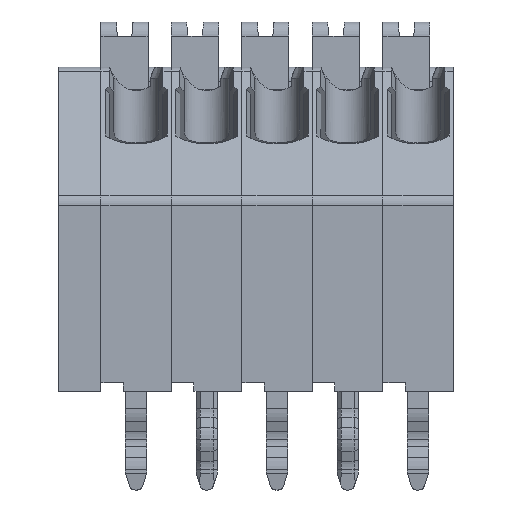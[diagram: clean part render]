
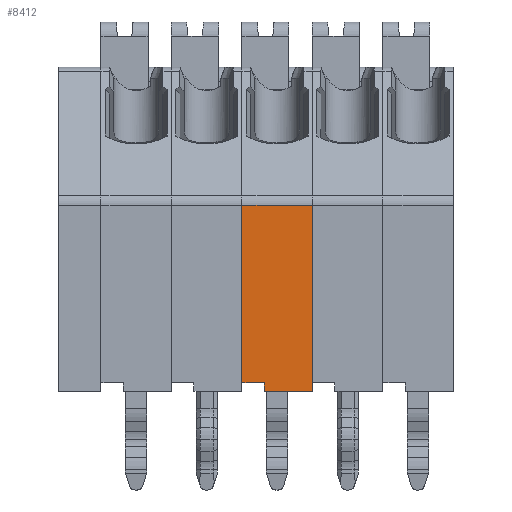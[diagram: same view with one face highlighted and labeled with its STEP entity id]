
A CAD part, front view. The second image highlights one B-rep face of the part: STEP entity #8412.
In plain terms, the highlighted planar face has unit normal (0, -1, 0).
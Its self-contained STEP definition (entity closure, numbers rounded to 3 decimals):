
#8412=ADVANCED_FACE('',(#18732),#18733,.T.);
#18732=FACE_OUTER_BOUND('',#31092,.T.);
#18733=PLANE('',#31093);
#31092=EDGE_LOOP('',(#56375,#56376,#56377,#56378,#56379,#56380));
#31093=AXIS2_PLACEMENT_3D('',#56381,#56382,#56383);
#56375=ORIENTED_EDGE('',*,*,#84146,.T.);
#56376=ORIENTED_EDGE('',*,*,#84147,.T.);
#56377=ORIENTED_EDGE('',*,*,#84148,.T.);
#56378=ORIENTED_EDGE('',*,*,#84149,.T.);
#56379=ORIENTED_EDGE('',*,*,#84150,.T.);
#56380=ORIENTED_EDGE('',*,*,#84151,.T.);
#56381=CARTESIAN_POINT('',(6.43,0.0,0.));
#56382=DIRECTION('',(0.0,-1.0,0.0));
#56383=DIRECTION('',(0.0,0.0,1.0));
#84146=EDGE_CURVE('',#103459,#103460,#103461,.F.);
#84147=EDGE_CURVE('',#103460,#103462,#103463,.F.);
#84148=EDGE_CURVE('',#103462,#103464,#103465,.T.);
#84149=EDGE_CURVE('',#103464,#103466,#103467,.F.);
#84150=EDGE_CURVE('',#103466,#103468,#103469,.T.);
#84151=EDGE_CURVE('',#103468,#103459,#103470,.T.);
#103459=VERTEX_POINT('',#131766);
#103460=VERTEX_POINT('',#131767);
#103461=LINE('',#131768,#131769);
#103462=VERTEX_POINT('',#131770);
#103463=LINE('',#131771,#131772);
#103464=VERTEX_POINT('',#131773);
#103465=LINE('',#131774,#131775);
#103466=VERTEX_POINT('',#131776);
#103467=LINE('',#131777,#131778);
#103468=VERTEX_POINT('',#131779);
#103469=LINE('',#131780,#131781);
#103470=LINE('',#131782,#131783);
#131766=CARTESIAN_POINT('',(7.5,0.0,6.593));
#131767=CARTESIAN_POINT('',(5.0,0.0,6.593));
#131768=CARTESIAN_POINT('',(6.43,0.0,6.593));
#131769=VECTOR('',#157249,1.0);
#131770=CARTESIAN_POINT('',(5.0,0.0,0.3));
#131771=CARTESIAN_POINT('',(5.0,0.0,-0.612));
#131772=VECTOR('',#157250,1.0);
#131773=CARTESIAN_POINT('',(5.8,0.0,0.3));
#131774=CARTESIAN_POINT('',(6.55,0.0,0.3));
#131775=VECTOR('',#157251,1.0);
#131776=CARTESIAN_POINT('',(5.8,0.0,0.));
#131777=CARTESIAN_POINT('',(5.8,0.0,0.));
#131778=VECTOR('',#157252,1.0);
#131779=CARTESIAN_POINT('',(7.5,0.0,0.));
#131780=CARTESIAN_POINT('',(6.982,0.0,0.));
#131781=VECTOR('',#157253,1.0);
#131782=CARTESIAN_POINT('',(7.5,0.0,4.573));
#131783=VECTOR('',#157254,1.0);
#157249=DIRECTION('',(1.0,0.0,0.0));
#157250=DIRECTION('',(0.0,0.0,1.0));
#157251=DIRECTION('',(1.0,0.0,0.0));
#157252=DIRECTION('',(0.0,0.0,1.0));
#157253=DIRECTION('',(1.0,0.0,0.0));
#157254=DIRECTION('',(0.0,0.0,1.0));
